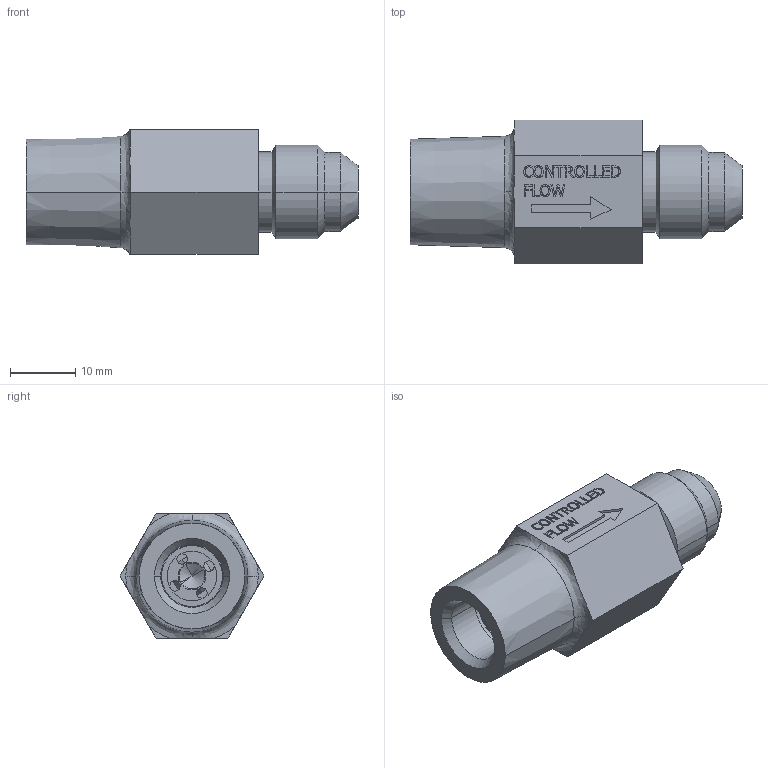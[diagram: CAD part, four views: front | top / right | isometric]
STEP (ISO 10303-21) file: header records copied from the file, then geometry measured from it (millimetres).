
FILE_DESCRIPTION((''),'2;1');
FILE_NAME('U:\Solid model CD\Solid model full\Mechanical\STEP\IMCVF00-3D Full.stp','2008-07-29T09:45:54',('Dan'),(''),'Autodesk Inventor 9','Autodesk Inventor 9','');
FILE_SCHEMA(('AUTOMOTIVE_DESIGN { 1 0 10303 214 1 1 1 1 }'));
Length unit declared in the file: inch
Products named in the file (3): IMCVF00-3D Full; IMCVF00-3D Full1; IMCVF00-3D Full2
Assembly tree (2 placements, depth 2):
  IMCVF00-3D Full
    IMCVF00-3D Full1
    IMCVF00-3D Full2
Bounding box: 50.8 x 22 x 19.05 mm (x, y, z)
Volume: 9364.5 mm3; surface area: 5528.2 mm2
Topology: 2 solids, 2 shells, 287 faces, 746 edges, 485 vertices
Faces by surface type: plane 144, bspline 81, cylinder 44, cone 18
Entity records: 9928 total; most frequent: CARTESIAN_POINT 3236, ORIENTED_EDGE 1484, DIRECTION 1150, EDGE_CURVE 742, VERTEX_POINT 485, VECTOR 456, LINE 456, AXIS2_PLACEMENT_3D 347
